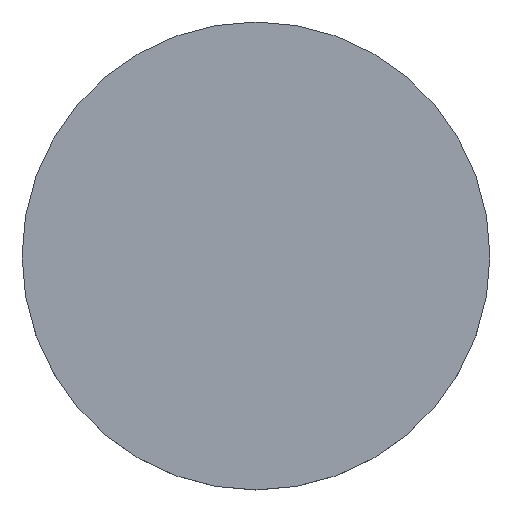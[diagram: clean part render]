
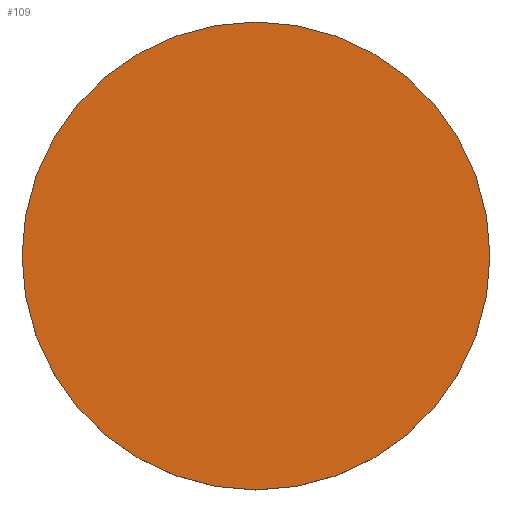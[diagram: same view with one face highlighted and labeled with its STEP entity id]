
A CAD part, top view. The second image highlights one B-rep face of the part: STEP entity #109.
In plain terms, the highlighted planar face has unit normal (0, 0, 1).
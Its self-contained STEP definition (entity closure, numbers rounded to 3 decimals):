
#24 = VERTEX_POINT('',#25);
#25 = CARTESIAN_POINT('',(2.6,-27.5,14.));
#32 = CYLINDRICAL_SURFACE('',#33,2.6);
#33 = AXIS2_PLACEMENT_3D('',#34,#35,#36);
#34 = CARTESIAN_POINT('',(0.,-27.5,13.6));
#35 = DIRECTION('',(-0.,-0.,-1.));
#36 = DIRECTION('',(1.,0.,0.));
#51 = EDGE_CURVE('',#24,#24,#52,.T.);
#52 = SURFACE_CURVE('',#53,(#58,#65),.PCURVE_S1.);
#53 = CIRCLE('',#54,2.6);
#54 = AXIS2_PLACEMENT_3D('',#55,#56,#57);
#55 = CARTESIAN_POINT('',(0.,-27.5,14.));
#56 = DIRECTION('',(0.,0.,1.));
#57 = DIRECTION('',(1.,0.,0.));
#58 = PCURVE('',#32,#59);
#59 = DEFINITIONAL_REPRESENTATION('',(#60),#64);
#60 = LINE('',#61,#62);
#61 = CARTESIAN_POINT('',(-0.,-0.4));
#62 = VECTOR('',#63,1.);
#63 = DIRECTION('',(-1.,0.));
#64 = ( GEOMETRIC_REPRESENTATION_CONTEXT(2) 
PARAMETRIC_REPRESENTATION_CONTEXT() REPRESENTATION_CONTEXT('2D SPACE',''
  ) );
#65 = PCURVE('',#66,#71);
#66 = PLANE('',#67);
#67 = AXIS2_PLACEMENT_3D('',#68,#69,#70);
#68 = CARTESIAN_POINT('',(0.,-27.5,14.));
#69 = DIRECTION('',(0.,0.,1.));
#70 = DIRECTION('',(1.,0.,-0.));
#71 = DEFINITIONAL_REPRESENTATION('',(#72),#76);
#72 = CIRCLE('',#73,2.6);
#73 = AXIS2_PLACEMENT_2D('',#74,#75);
#74 = CARTESIAN_POINT('',(0.,0.));
#75 = DIRECTION('',(1.,0.));
#76 = ( GEOMETRIC_REPRESENTATION_CONTEXT(2) 
PARAMETRIC_REPRESENTATION_CONTEXT() REPRESENTATION_CONTEXT('2D SPACE',''
  ) );
#109 = ADVANCED_FACE('',(#110),#66,.T.);
#110 = FACE_BOUND('',#111,.T.);
#111 = EDGE_LOOP('',(#112));
#112 = ORIENTED_EDGE('',*,*,#51,.T.);
